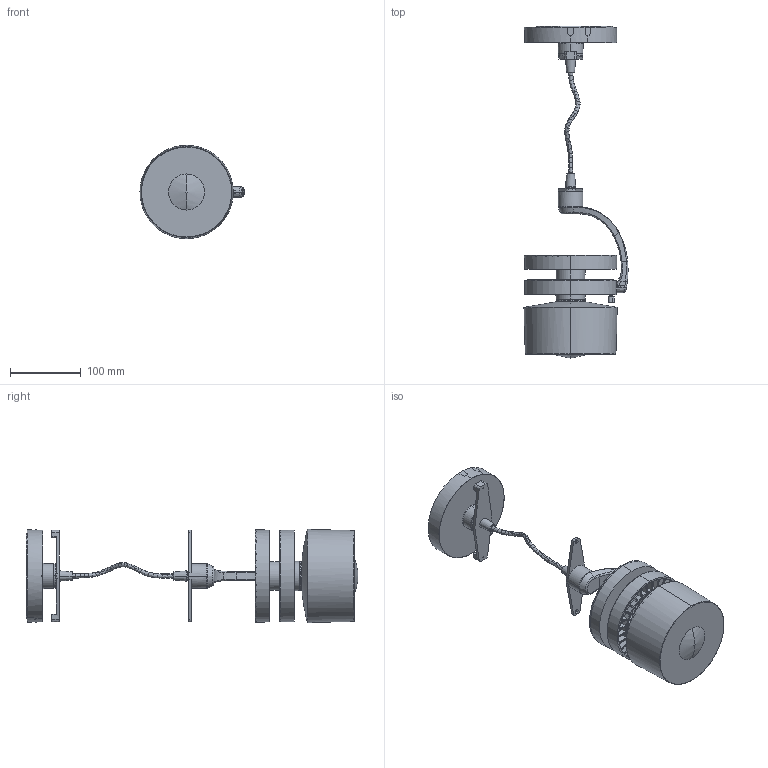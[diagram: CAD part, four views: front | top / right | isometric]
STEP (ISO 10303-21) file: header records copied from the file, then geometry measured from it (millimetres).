
FILE_DESCRIPTION(/* description */ (''),/* implementation_level */ '2;1');
FILE_NAME(/* name */ 'M0672A81 - CATA SUSPENSION - OPTIC 14°',/* time_stamp */ '2018-03-01T12:07:30+01:00',/* author */ (''),/* organization */ (''),/* preprocessor_version */ 'ST-DEVELOPER v15',/* originating_system */ '',/* authorisation */ '');
FILE_SCHEMA (('CONFIG_CONTROL_DESIGN'));
Products named in the file (1): Document
Bounding box: 147.31 x 469.89 x 132 mm (x, y, z)
Volume: 163265.8 mm3; surface area: 353632.3 mm2
Topology: 15 solids, 95 shells, 1712 faces, 4512 edges, 2847 vertices
Faces by surface type: bspline 1278, plane 434
Entity records: 94095 total; most frequent: CARTESIAN_POINT 68621, ORIENTED_EDGE 8375, EDGE_CURVE 4499, VERTEX_POINT 2846, B_SPLINE_CURVE_WITH_KNOTS 2600, EDGE_LOOP 1905, ADVANCED_FACE 1708, FACE_OUTER_BOUND 1708
